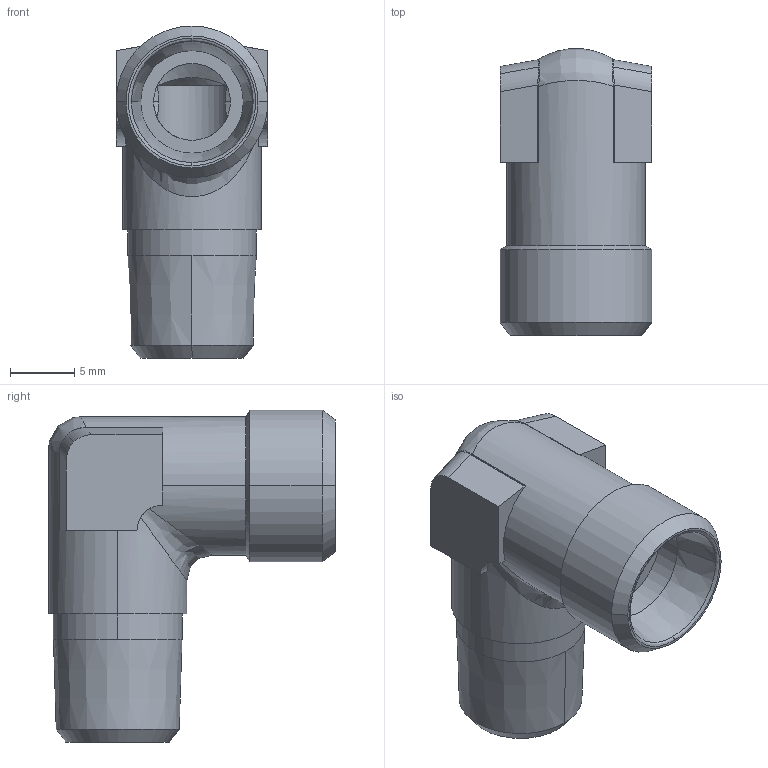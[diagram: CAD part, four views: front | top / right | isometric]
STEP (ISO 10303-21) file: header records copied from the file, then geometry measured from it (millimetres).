
FILE_DESCRIPTION((''),'2;1');
FILE_NAME('102003.stp','2007-10-30T16:31:39',(''),(''),'AutoCAD STEP 2000i','AutoCAD 2000i',', , ');
FILE_SCHEMA(('CONFIG_CONTROL_DESIGN'));
Length unit declared in the file: millimetre
Products named in the file (2): 102003.0; 1090#0
Assembly tree (1 placements, depth 2):
  102003.0
    1090#0
Bounding box: 11.85 x 22.4 x 25.93 mm (x, y, z)
Volume: 2254.5 mm3; surface area: 2135.1 mm2
Topology: 1 solids, 1 shells, 86 faces, 207 edges, 125 vertices
Faces by surface type: cylinder 38, cone 22, plane 14, bspline 12
Entity records: 3519 total; most frequent: CARTESIAN_POINT 1423, DIRECTION 434, ORIENTED_EDGE 414, EDGE_CURVE 207, AXIS2_PLACEMENT_3D 182, VERTEX_POINT 125, CIRCLE 91, EDGE_LOOP 90
